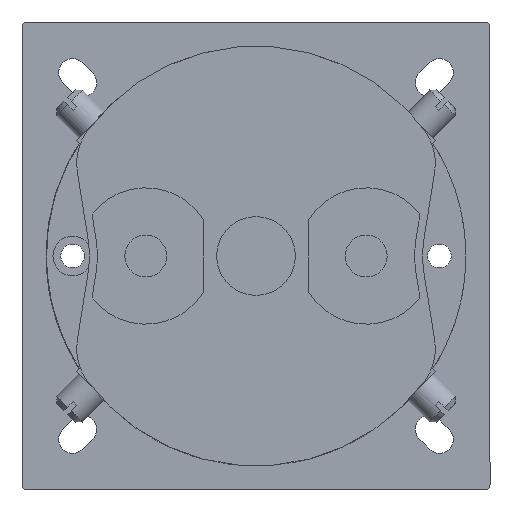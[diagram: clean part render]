
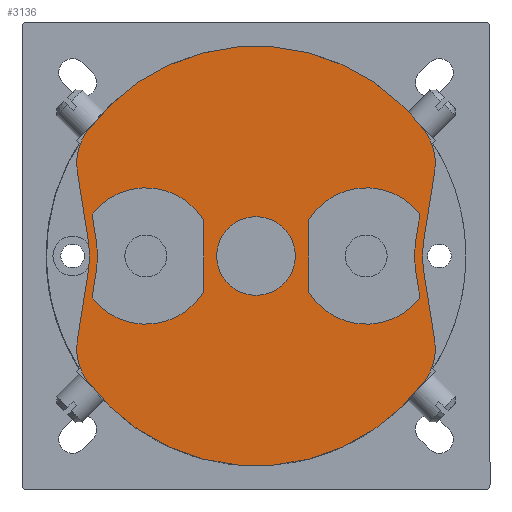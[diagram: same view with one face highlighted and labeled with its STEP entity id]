
A CAD part, front view. The second image highlights one B-rep face of the part: STEP entity #3136.
In plain terms, the highlighted planar face has unit normal (0, -1, 0).
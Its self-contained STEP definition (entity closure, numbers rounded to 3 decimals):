
#1683=FACE_BOUND('',#8360,.T.);
#1684=FACE_BOUND('',#8361,.T.);
#1685=FACE_BOUND('',#8362,.T.);
#1686=FACE_BOUND('',#8363,.T.);
#3136=ADVANCED_FACE('',(#1683,#1684,#1685,#1686),#4639,.T.);
#4639=PLANE('',#35525);
#8360=EDGE_LOOP('',(#16940,#16941,#16942,#16943,#16944,#16945));
#8361=EDGE_LOOP('',(#16946,#16947,#16948,#16949,#16950,#16951));
#8362=EDGE_LOOP('',(#16952,#16953,#16954,#16955,#16956,#16957,#16958,#16959,
#16960,#16961,#16962,#16963));
#8363=EDGE_LOOP('',(#16964));
#9618=CIRCLE('',#35497,7.5);
#9619=CIRCLE('',#35499,13.);
#9620=CIRCLE('',#35502,21.5);
#9621=CIRCLE('',#35505,13.);
#9622=CIRCLE('',#35508,21.5);
#9623=CIRCLE('',#35511,13.);
#9624=CIRCLE('',#35514,13.);
#9625=CIRCLE('',#35517,10.);
#9626=CIRCLE('',#35518,20.);
#9627=CIRCLE('',#35519,10.);
#9628=CIRCLE('',#35520,40.);
#9629=CIRCLE('',#35521,10.);
#9630=CIRCLE('',#35522,20.);
#9631=CIRCLE('',#35523,10.);
#9632=CIRCLE('',#35524,40.);
#16940=ORIENTED_EDGE('',*,*,#25745,.T.);
#16941=ORIENTED_EDGE('',*,*,#25743,.T.);
#16942=ORIENTED_EDGE('',*,*,#25741,.T.);
#16943=ORIENTED_EDGE('',*,*,#25739,.T.);
#16944=ORIENTED_EDGE('',*,*,#25737,.T.);
#16945=ORIENTED_EDGE('',*,*,#25734,.T.);
#16946=ORIENTED_EDGE('',*,*,#25733,.F.);
#16947=ORIENTED_EDGE('',*,*,#25731,.F.);
#16948=ORIENTED_EDGE('',*,*,#25729,.F.);
#16949=ORIENTED_EDGE('',*,*,#25727,.F.);
#16950=ORIENTED_EDGE('',*,*,#25725,.F.);
#16951=ORIENTED_EDGE('',*,*,#25722,.F.);
#16952=ORIENTED_EDGE('',*,*,#25746,.T.);
#16953=ORIENTED_EDGE('',*,*,#25747,.T.);
#16954=ORIENTED_EDGE('',*,*,#25748,.T.);
#16955=ORIENTED_EDGE('',*,*,#25749,.T.);
#16956=ORIENTED_EDGE('',*,*,#25750,.T.);
#16957=ORIENTED_EDGE('',*,*,#25751,.T.);
#16958=ORIENTED_EDGE('',*,*,#25752,.T.);
#16959=ORIENTED_EDGE('',*,*,#25753,.T.);
#16960=ORIENTED_EDGE('',*,*,#25754,.T.);
#16961=ORIENTED_EDGE('',*,*,#25755,.T.);
#16962=ORIENTED_EDGE('',*,*,#25756,.T.);
#16963=ORIENTED_EDGE('',*,*,#25757,.T.);
#16964=ORIENTED_EDGE('',*,*,#25721,.F.);
#21470=VERTEX_POINT('',#55710);
#21471=VERTEX_POINT('',#55713);
#21472=VERTEX_POINT('',#55714);
#21473=VERTEX_POINT('',#55719);
#21474=VERTEX_POINT('',#55723);
#21475=VERTEX_POINT('',#55727);
#21476=VERTEX_POINT('',#55731);
#21477=VERTEX_POINT('',#55737);
#21478=VERTEX_POINT('',#55738);
#21479=VERTEX_POINT('',#55743);
#21480=VERTEX_POINT('',#55747);
#21481=VERTEX_POINT('',#55751);
#21482=VERTEX_POINT('',#55755);
#21483=VERTEX_POINT('',#55761);
#21484=VERTEX_POINT('',#55762);
#21485=VERTEX_POINT('',#55764);
#21486=VERTEX_POINT('',#55766);
#21487=VERTEX_POINT('',#55768);
#21488=VERTEX_POINT('',#55770);
#21489=VERTEX_POINT('',#55772);
#21490=VERTEX_POINT('',#55774);
#21491=VERTEX_POINT('',#55776);
#21492=VERTEX_POINT('',#55778);
#21493=VERTEX_POINT('',#55780);
#21494=VERTEX_POINT('',#55782);
#25721=EDGE_CURVE('',#21470,#21470,#9618,.T.);
#25722=EDGE_CURVE('',#21471,#21472,#9619,.T.);
#25725=EDGE_CURVE('',#21472,#21473,#29272,.T.);
#25727=EDGE_CURVE('',#21473,#21474,#9620,.T.);
#25729=EDGE_CURVE('',#21474,#21475,#29275,.T.);
#25731=EDGE_CURVE('',#21475,#21476,#9621,.T.);
#25733=EDGE_CURVE('',#21476,#21471,#29278,.T.);
#25734=EDGE_CURVE('',#21477,#21478,#9622,.T.);
#25737=EDGE_CURVE('',#21479,#21477,#29281,.T.);
#25739=EDGE_CURVE('',#21480,#21479,#9623,.T.);
#25741=EDGE_CURVE('',#21481,#21480,#29284,.T.);
#25743=EDGE_CURVE('',#21482,#21481,#9624,.T.);
#25745=EDGE_CURVE('',#21478,#21482,#29287,.T.);
#25746=EDGE_CURVE('',#21483,#21484,#9625,.T.);
#25747=EDGE_CURVE('',#21484,#21485,#29288,.T.);
#25748=EDGE_CURVE('',#21485,#21486,#9626,.T.);
#25749=EDGE_CURVE('',#21486,#21487,#29289,.T.);
#25750=EDGE_CURVE('',#21487,#21488,#9627,.T.);
#25751=EDGE_CURVE('',#21488,#21489,#9628,.T.);
#25752=EDGE_CURVE('',#21489,#21490,#9629,.T.);
#25753=EDGE_CURVE('',#21490,#21491,#29290,.T.);
#25754=EDGE_CURVE('',#21491,#21492,#9630,.T.);
#25755=EDGE_CURVE('',#21492,#21493,#29291,.T.);
#25756=EDGE_CURVE('',#21493,#21494,#9631,.T.);
#25757=EDGE_CURVE('',#21494,#21483,#9632,.T.);
#29272=LINE('',#55718,#32571);
#29275=LINE('',#55726,#32574);
#29278=LINE('',#55734,#32577);
#29281=LINE('',#55742,#32580);
#29284=LINE('',#55750,#32583);
#29287=LINE('',#55758,#32586);
#29288=LINE('',#55763,#32587);
#29289=LINE('',#55767,#32588);
#29290=LINE('',#55775,#32589);
#29291=LINE('',#55779,#32590);
#32571=VECTOR('',#43277,1.);
#32574=VECTOR('',#43286,1.);
#32577=VECTOR('',#43295,1.);
#32580=VECTOR('',#43304,1.);
#32583=VECTOR('',#43313,1.);
#32586=VECTOR('',#43322,1.);
#32587=VECTOR('',#43327,1.);
#32588=VECTOR('',#43330,1.);
#32589=VECTOR('',#43337,1.);
#32590=VECTOR('',#43340,1.);
#35497=AXIS2_PLACEMENT_3D('',#55709,#43267,#43268);
#35499=AXIS2_PLACEMENT_3D('',#55712,#43271,#43272);
#35502=AXIS2_PLACEMENT_3D('',#55722,#43281,#43282);
#35505=AXIS2_PLACEMENT_3D('',#55730,#43290,#43291);
#35508=AXIS2_PLACEMENT_3D('',#55736,#43298,#43299);
#35511=AXIS2_PLACEMENT_3D('',#55746,#43308,#43309);
#35514=AXIS2_PLACEMENT_3D('',#55754,#43317,#43318);
#35517=AXIS2_PLACEMENT_3D('',#55760,#43325,#43326);
#35518=AXIS2_PLACEMENT_3D('',#55765,#43328,#43329);
#35519=AXIS2_PLACEMENT_3D('',#55769,#43331,#43332);
#35520=AXIS2_PLACEMENT_3D('',#55771,#43333,#43334);
#35521=AXIS2_PLACEMENT_3D('',#55773,#43335,#43336);
#35522=AXIS2_PLACEMENT_3D('',#55777,#43338,#43339);
#35523=AXIS2_PLACEMENT_3D('',#55781,#43341,#43342);
#35524=AXIS2_PLACEMENT_3D('',#55783,#43343,#43344);
#35525=AXIS2_PLACEMENT_3D('',#55784,#43345,#43346);
#43267=DIRECTION('',(0.,-1.,0.));
#43268=DIRECTION('',(0.,0.,-1.));
#43271=DIRECTION('',(0.,-1.,0.));
#43272=DIRECTION('',(1.,0.,0.));
#43277=DIRECTION('',(-0.156,0.,0.988));
#43281=DIRECTION('',(0.,1.,0.));
#43282=DIRECTION('',(1.,0.,0.));
#43286=DIRECTION('',(0.156,0.,0.988));
#43290=DIRECTION('',(0.,-1.,0.));
#43291=DIRECTION('',(1.,0.,0.));
#43295=DIRECTION('',(0.,0.,-1.));
#43298=DIRECTION('',(0.,-1.,0.));
#43299=DIRECTION('',(1.,0.,0.));
#43304=DIRECTION('',(0.156,0.,0.988));
#43308=DIRECTION('',(0.,1.,0.));
#43309=DIRECTION('',(1.,0.,0.));
#43313=DIRECTION('',(0.,0.,-1.));
#43317=DIRECTION('',(0.,1.,0.));
#43318=DIRECTION('',(1.,0.,0.));
#43322=DIRECTION('',(-0.156,0.,0.988));
#43325=DIRECTION('',(0.,-1.,0.));
#43326=DIRECTION('',(0.,0.,-1.));
#43327=DIRECTION('',(0.156,0.,-0.988));
#43328=DIRECTION('',(0.,1.,0.));
#43329=DIRECTION('',(0.,0.,-1.));
#43330=DIRECTION('',(-0.156,0.,-0.988));
#43331=DIRECTION('',(0.,-1.,0.));
#43332=DIRECTION('',(0.,0.,-1.));
#43333=DIRECTION('',(0.,-1.,0.));
#43334=DIRECTION('',(0.,0.,-1.));
#43335=DIRECTION('',(0.,-1.,0.));
#43336=DIRECTION('',(0.,0.,-1.));
#43337=DIRECTION('',(-0.156,0.,0.988));
#43338=DIRECTION('',(0.,1.,0.));
#43339=DIRECTION('',(0.,0.,-1.));
#43340=DIRECTION('',(0.156,0.,0.988));
#43341=DIRECTION('',(0.,-1.,0.));
#43342=DIRECTION('',(0.,0.,-1.));
#43343=DIRECTION('',(0.,-1.,0.));
#43344=DIRECTION('',(0.,0.,-1.));
#43345=DIRECTION('',(0.,-1.,0.));
#43346=DIRECTION('',(0.,0.,-1.));
#55709=CARTESIAN_POINT('',(0.,-224.5,0.));
#55710=CARTESIAN_POINT('',(0.,-224.5,-7.5));
#55712=CARTESIAN_POINT('',(21.031,-224.5,0.));
#55713=CARTESIAN_POINT('',(10.031,-224.5,-6.928));
#55714=CARTESIAN_POINT('',(31.253,-224.5,-8.032));
#55718=CARTESIAN_POINT('',(31.253,-224.5,-8.032));
#55719=CARTESIAN_POINT('',(30.514,-224.5,-3.363));
#55722=CARTESIAN_POINT('',(51.749,-224.5,0.));
#55723=CARTESIAN_POINT('',(30.514,-224.5,3.363));
#55726=CARTESIAN_POINT('',(30.514,-224.5,3.363));
#55727=CARTESIAN_POINT('',(31.253,-224.5,8.032));
#55730=CARTESIAN_POINT('',(21.031,-224.5,0.));
#55731=CARTESIAN_POINT('',(10.031,-224.5,6.928));
#55734=CARTESIAN_POINT('',(10.031,-224.5,6.928));
#55736=CARTESIAN_POINT('',(-51.749,-224.5,0.));
#55737=CARTESIAN_POINT('',(-30.514,-224.5,-3.363));
#55738=CARTESIAN_POINT('',(-30.514,-224.5,3.363));
#55742=CARTESIAN_POINT('',(-31.248,-224.5,-7.998));
#55743=CARTESIAN_POINT('',(-31.248,-224.5,-7.998));
#55746=CARTESIAN_POINT('',(-21.,-224.5,0.));
#55747=CARTESIAN_POINT('',(-10.,-224.5,-6.928));
#55750=CARTESIAN_POINT('',(-10.,-224.5,6.928));
#55751=CARTESIAN_POINT('',(-10.,-224.5,6.928));
#55754=CARTESIAN_POINT('',(-21.,-224.5,0.));
#55755=CARTESIAN_POINT('',(-31.248,-224.5,7.998));
#55758=CARTESIAN_POINT('',(-30.514,-224.5,3.363));
#55760=CARTESIAN_POINT('',(-24.186,-224.5,17.749));
#55761=CARTESIAN_POINT('',(-32.249,-224.5,23.665));
#55762=CARTESIAN_POINT('',(-34.063,-224.5,16.184));
#55763=CARTESIAN_POINT('',(-34.063,-224.5,16.184));
#55764=CARTESIAN_POINT('',(-31.996,-224.5,3.129));
#55765=CARTESIAN_POINT('',(-51.749,-224.5,0.));
#55766=CARTESIAN_POINT('',(-31.996,-224.5,-3.129));
#55767=CARTESIAN_POINT('',(-31.996,-224.5,-3.129));
#55768=CARTESIAN_POINT('',(-34.063,-224.5,-16.184));
#55769=CARTESIAN_POINT('',(-24.186,-224.5,-17.749));
#55770=CARTESIAN_POINT('',(-32.249,-224.5,-23.665));
#55771=CARTESIAN_POINT('',(0.,-224.5,0.));
#55772=CARTESIAN_POINT('',(32.249,-224.5,-23.665));
#55773=CARTESIAN_POINT('',(24.186,-224.5,-17.749));
#55774=CARTESIAN_POINT('',(34.063,-224.5,-16.184));
#55775=CARTESIAN_POINT('',(34.063,-224.5,-16.184));
#55776=CARTESIAN_POINT('',(31.996,-224.5,-3.129));
#55777=CARTESIAN_POINT('',(51.749,-224.5,0.));
#55778=CARTESIAN_POINT('',(31.996,-224.5,3.129));
#55779=CARTESIAN_POINT('',(31.996,-224.5,3.129));
#55780=CARTESIAN_POINT('',(34.063,-224.5,16.184));
#55781=CARTESIAN_POINT('',(24.186,-224.5,17.749));
#55782=CARTESIAN_POINT('',(32.249,-224.5,23.665));
#55783=CARTESIAN_POINT('',(0.,-224.5,0.));
#55784=CARTESIAN_POINT('',(-24.186,-224.5,17.749));
